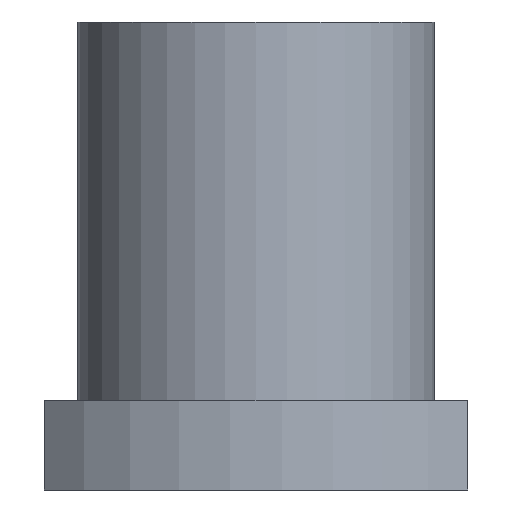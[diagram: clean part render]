
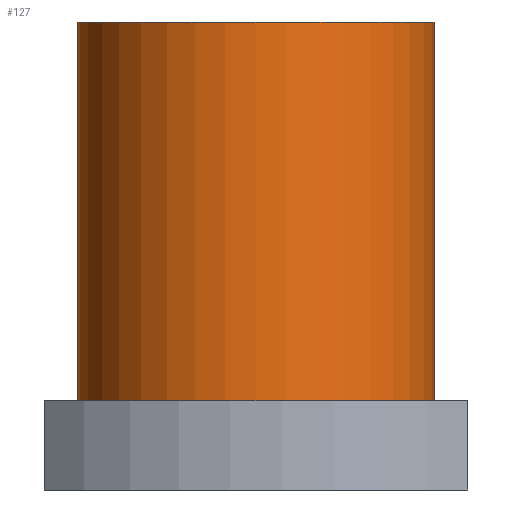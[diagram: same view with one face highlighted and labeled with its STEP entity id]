
A CAD part, front view. The second image highlights one B-rep face of the part: STEP entity #127.
In plain terms, the highlighted cylindrical face has radius 16 mm (diameter 32 mm), a partial arc.
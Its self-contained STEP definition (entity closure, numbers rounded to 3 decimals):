
#86=CARTESIAN_POINT('',(14.,-13.954,0.0));
#87=DIRECTION('',(0.0,0.0,1.0));
#88=DIRECTION('',(-1.0,0.0,0.0));
#89=AXIS2_PLACEMENT_3D('',#86,#87,#88);
#90=CYLINDRICAL_SURFACE('',#89,16.0);
#91=CARTESIAN_POINT('',(-2.,-13.954,8.0));
#92=VERTEX_POINT('',#91);
#93=CARTESIAN_POINT('',(-2.,-13.954,42.0));
#94=VERTEX_POINT('',#93);
#95=CARTESIAN_POINT('',(-2.,-13.954,8.0));
#96=DIRECTION('',(0.0,0.0,1.0));
#97=VECTOR('',#96,34.0);
#98=LINE('',#95,#97);
#99=EDGE_CURVE('',#92,#94,#98,.T.);
#100=ORIENTED_EDGE('',*,*,#99,.F.);
#101=CARTESIAN_POINT('',(30.,-13.954,8.0));
#102=VERTEX_POINT('',#101);
#103=CARTESIAN_POINT('',(14.,-13.954,8.0));
#104=DIRECTION('',(0.0,0.0,-1.0));
#105=DIRECTION('',(-1.0,0.0,0.0));
#106=AXIS2_PLACEMENT_3D('',#103,#104,#105);
#107=CIRCLE('',#106,16.0);
#108=EDGE_CURVE('',#102,#92,#107,.T.);
#109=ORIENTED_EDGE('',*,*,#108,.F.);
#110=CARTESIAN_POINT('',(30.,-13.954,42.0));
#111=VERTEX_POINT('',#110);
#112=CARTESIAN_POINT('',(30.,-13.954,42.0));
#113=DIRECTION('',(0.0,0.0,-1.0));
#114=VECTOR('',#113,34.0);
#115=LINE('',#112,#114);
#116=EDGE_CURVE('',#111,#102,#115,.T.);
#117=ORIENTED_EDGE('',*,*,#116,.F.);
#118=CARTESIAN_POINT('',(14.,-13.954,42.0));
#119=DIRECTION('',(0.0,0.0,-1.0));
#120=DIRECTION('',(-1.0,0.0,0.0));
#121=AXIS2_PLACEMENT_3D('',#118,#119,#120);
#122=CIRCLE('',#121,16.0);
#123=EDGE_CURVE('',#111,#94,#122,.T.);
#124=ORIENTED_EDGE('',*,*,#123,.T.);
#125=EDGE_LOOP('',(#100,#109,#117,#124));
#126=FACE_OUTER_BOUND('',#125,.T.);
#127=ADVANCED_FACE('',(#126),#90,.T.);
